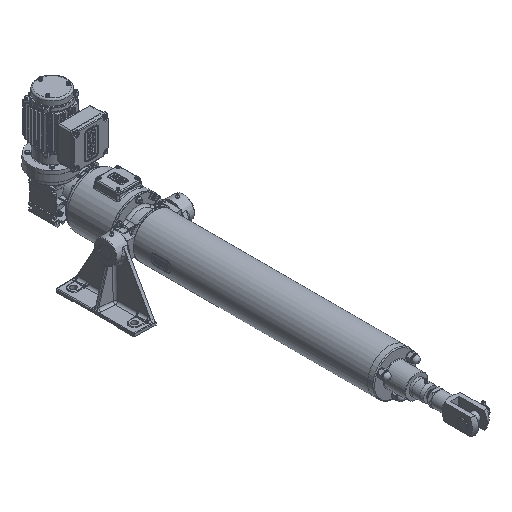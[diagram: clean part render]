
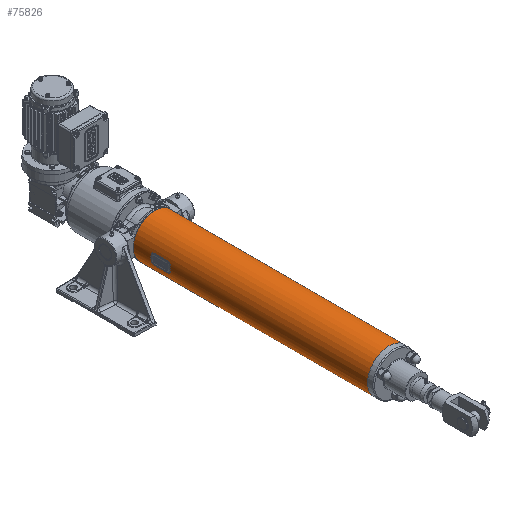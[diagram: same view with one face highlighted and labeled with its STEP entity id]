
A CAD part, isometric view. The second image highlights one B-rep face of the part: STEP entity #75826.
In plain terms, the highlighted cylindrical face has radius 70 mm (diameter 140 mm), a full revolution.
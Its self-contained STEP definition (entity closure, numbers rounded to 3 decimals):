
#1158=CYLINDRICAL_SURFACE('',#80118,70.);
#2663=B_SPLINE_CURVE_WITH_KNOTS('',3,(#108322,#108323,#108324,#108325,#108326,
#108327),.UNSPECIFIED.,.F.,.F.,(4,1,1,4),(0.,0.003,0.006,
0.013),.UNSPECIFIED.);
#2664=B_SPLINE_CURVE_WITH_KNOTS('',3,(#108331,#108332,#108333,#108334,#108335,
#108336,#108337),.UNSPECIFIED.,.F.,.F.,(4,1,1,1,4),(0.,0.003,
0.006,0.009,0.013),
 .UNSPECIFIED.);
#2665=B_SPLINE_CURVE_WITH_KNOTS('',3,(#108338,#108339,#108340,#108341,#108342,
#108343),.UNSPECIFIED.,.F.,.F.,(4,1,1,4),(0.,0.003,0.006,
0.013),.UNSPECIFIED.);
#2666=B_SPLINE_CURVE_WITH_KNOTS('',3,(#108347,#108348,#108349,#108350,#108351,
#108352,#108353),.UNSPECIFIED.,.F.,.F.,(4,1,1,1,4),(0.,0.003,
0.006,0.009,0.013),
 .UNSPECIFIED.);
#2667=B_SPLINE_CURVE_WITH_KNOTS('',3,(#108358,#108359,#108360,#108361,#108362,
#108363),.UNSPECIFIED.,.F.,.F.,(4,1,1,4),(0.,0.003,0.006,
0.013),.UNSPECIFIED.);
#2668=B_SPLINE_CURVE_WITH_KNOTS('',3,(#108367,#108368,#108369,#108370,#108371,
#108372,#108373),.UNSPECIFIED.,.F.,.F.,(4,1,1,1,4),(0.,0.003,
0.006,0.009,0.013),.UNSPECIFIED.);
#2669=B_SPLINE_CURVE_WITH_KNOTS('',3,(#108374,#108375,#108376,#108377,#108378,
#108379),.UNSPECIFIED.,.F.,.F.,(4,1,1,4),(0.,0.003,0.006,
0.013),.UNSPECIFIED.);
#2670=B_SPLINE_CURVE_WITH_KNOTS('',3,(#108383,#108384,#108385,#108386,#108387,
#108388,#108389),.UNSPECIFIED.,.F.,.F.,(4,1,1,1,4),(0.,0.003,
0.006,0.009,0.013),
 .UNSPECIFIED.);
#4472=LINE('',#108329,#8336);
#4473=LINE('',#108345,#8337);
#4474=LINE('',#108365,#8338);
#4475=LINE('',#108381,#8339);
#8336=VECTOR('',#89149,1000.);
#8337=VECTOR('',#89150,1000.);
#8338=VECTOR('',#89155,1000.);
#8339=VECTOR('',#89156,1000.);
#16080=ORIENTED_EDGE('',*,*,#29884,.F.);
#16081=ORIENTED_EDGE('',*,*,#29885,.F.);
#16082=ORIENTED_EDGE('',*,*,#29886,.F.);
#16083=ORIENTED_EDGE('',*,*,#29875,.F.);
#16084=ORIENTED_EDGE('',*,*,#29887,.F.);
#16085=ORIENTED_EDGE('',*,*,#29888,.F.);
#16086=ORIENTED_EDGE('',*,*,#29889,.F.);
#16087=ORIENTED_EDGE('',*,*,#29871,.F.);
#16088=ORIENTED_EDGE('',*,*,#29890,.F.);
#16089=ORIENTED_EDGE('',*,*,#29891,.T.);
#16090=ORIENTED_EDGE('',*,*,#29892,.F.);
#16091=ORIENTED_EDGE('',*,*,#29893,.F.);
#16092=ORIENTED_EDGE('',*,*,#29894,.F.);
#16093=ORIENTED_EDGE('',*,*,#29883,.F.);
#16094=ORIENTED_EDGE('',*,*,#29895,.F.);
#16095=ORIENTED_EDGE('',*,*,#29896,.F.);
#16096=ORIENTED_EDGE('',*,*,#29897,.F.);
#16097=ORIENTED_EDGE('',*,*,#29879,.F.);
#29871=EDGE_CURVE('',#37087,#37085,#41746,.T.);
#29875=EDGE_CURVE('',#37091,#37089,#41748,.T.);
#29879=EDGE_CURVE('',#37095,#37093,#41750,.T.);
#29883=EDGE_CURVE('',#37099,#37097,#41752,.T.);
#29884=EDGE_CURVE('',#37100,#37087,#2663,.T.);
#29885=EDGE_CURVE('',#37101,#37100,#4472,.T.);
#29886=EDGE_CURVE('',#37089,#37101,#2664,.T.);
#29887=EDGE_CURVE('',#37102,#37091,#2665,.T.);
#29888=EDGE_CURVE('',#37103,#37102,#4473,.F.);
#29889=EDGE_CURVE('',#37085,#37103,#2666,.T.);
#29890=EDGE_CURVE('',#37104,#37104,#41753,.T.);
#29891=EDGE_CURVE('',#37105,#37105,#41754,.T.);
#29892=EDGE_CURVE('',#37106,#37095,#2667,.T.);
#29893=EDGE_CURVE('',#37107,#37106,#4474,.F.);
#29894=EDGE_CURVE('',#37097,#37107,#2668,.T.);
#29895=EDGE_CURVE('',#37108,#37099,#2669,.T.);
#29896=EDGE_CURVE('',#37109,#37108,#4475,.T.);
#29897=EDGE_CURVE('',#37093,#37109,#2670,.T.);
#37085=VERTEX_POINT('',#108288);
#37087=VERTEX_POINT('',#108292);
#37089=VERTEX_POINT('',#108297);
#37091=VERTEX_POINT('',#108301);
#37093=VERTEX_POINT('',#108306);
#37095=VERTEX_POINT('',#108310);
#37097=VERTEX_POINT('',#108315);
#37099=VERTEX_POINT('',#108319);
#37100=VERTEX_POINT('',#108328);
#37101=VERTEX_POINT('',#108330);
#37102=VERTEX_POINT('',#108344);
#37103=VERTEX_POINT('',#108346);
#37104=VERTEX_POINT('',#108355);
#37105=VERTEX_POINT('',#108357);
#37106=VERTEX_POINT('',#108364);
#37107=VERTEX_POINT('',#108366);
#37108=VERTEX_POINT('',#108380);
#37109=VERTEX_POINT('',#108382);
#41746=CIRCLE('',#80108,70.);
#41748=CIRCLE('',#80111,70.);
#41750=CIRCLE('',#80114,70.);
#41752=CIRCLE('',#80117,70.);
#41753=CIRCLE('',#80119,70.);
#41754=CIRCLE('',#80120,70.);
#44532=EDGE_LOOP('',(#16080,#16081,#16082,#16083,#16084,#16085,#16086,#16087));
#44533=EDGE_LOOP('',(#16088));
#44534=EDGE_LOOP('',(#16089));
#44535=EDGE_LOOP('',(#16090,#16091,#16092,#16093,#16094,#16095,#16096,#16097));
#48383=FACE_BOUND('',#44532,.T.);
#48384=FACE_BOUND('',#44533,.T.);
#48385=FACE_BOUND('',#44534,.T.);
#48386=FACE_BOUND('',#44535,.T.);
#75826=ADVANCED_FACE('',(#48383,#48384,#48385,#48386),#1158,.T.);
#80108=AXIS2_PLACEMENT_3D('',#108293,#89121,#89122);
#80111=AXIS2_PLACEMENT_3D('',#108302,#89129,#89130);
#80114=AXIS2_PLACEMENT_3D('',#108311,#89137,#89138);
#80117=AXIS2_PLACEMENT_3D('',#108320,#89145,#89146);
#80118=AXIS2_PLACEMENT_3D('',#108321,#89147,#89148);
#80119=AXIS2_PLACEMENT_3D('',#108354,#89151,#89152);
#80120=AXIS2_PLACEMENT_3D('',#108356,#89153,#89154);
#89121=DIRECTION('',(0.,1.,0.));
#89122=DIRECTION('',(0.,0.,1.));
#89129=DIRECTION('',(0.,-1.,0.));
#89130=DIRECTION('',(0.,0.,-1.));
#89137=DIRECTION('',(0.,-1.,0.));
#89138=DIRECTION('',(0.,0.,-1.));
#89145=DIRECTION('',(0.,1.,0.));
#89146=DIRECTION('',(0.,0.,1.));
#89147=DIRECTION('',(0.,-1.,0.));
#89148=DIRECTION('',(0.,0.,-1.));
#89149=DIRECTION('',(0.,-1.,0.));
#89150=DIRECTION('',(0.,-1.,0.));
#89151=DIRECTION('',(0.,1.,0.));
#89152=DIRECTION('',(1.,0.,0.));
#89153=DIRECTION('',(0.,1.,0.));
#89154=DIRECTION('',(1.,0.,0.));
#89155=DIRECTION('',(0.,-1.,0.));
#89156=DIRECTION('',(0.,-1.,0.));
#108288=CARTESIAN_POINT('',(69.541,642.503,-8.));
#108292=CARTESIAN_POINT('',(69.541,642.503,8.));
#108293=CARTESIAN_POINT('',(0.,642.503,0.));
#108297=CARTESIAN_POINT('',(69.541,704.503,8.));
#108301=CARTESIAN_POINT('',(69.541,704.503,-8.));
#108302=CARTESIAN_POINT('',(0.,704.503,0.));
#108306=CARTESIAN_POINT('',(-69.541,707.853,-8.));
#108310=CARTESIAN_POINT('',(-69.541,707.853,8.));
#108311=CARTESIAN_POINT('',(0.,707.853,0.));
#108315=CARTESIAN_POINT('',(-69.541,645.853,8.));
#108319=CARTESIAN_POINT('',(-69.541,645.853,-8.));
#108320=CARTESIAN_POINT('',(0.,645.853,0.));
#108321=CARTESIAN_POINT('',(0.,766.,0.));
#108322=CARTESIAN_POINT('',(68.147,650.503,16.));
#108323=CARTESIAN_POINT('',(68.147,649.439,16.));
#108324=CARTESIAN_POINT('',(68.248,647.345,15.576));
#108325=CARTESIAN_POINT('',(68.774,643.795,13.194));
#108326=CARTESIAN_POINT('',(69.298,642.503,10.113));
#108327=CARTESIAN_POINT('',(69.541,642.503,8.));
#108328=CARTESIAN_POINT('',(68.147,650.503,16.));
#108329=CARTESIAN_POINT('',(68.147,766.,16.));
#108330=CARTESIAN_POINT('',(68.147,696.503,16.));
#108331=CARTESIAN_POINT('',(69.541,704.503,8.));
#108332=CARTESIAN_POINT('',(69.42,704.503,9.057));
#108333=CARTESIAN_POINT('',(69.131,704.086,11.132));
#108334=CARTESIAN_POINT('',(68.642,702.322,13.787));
#108335=CARTESIAN_POINT('',(68.249,699.672,15.572));
#108336=CARTESIAN_POINT('',(68.147,697.567,16.));
#108337=CARTESIAN_POINT('',(68.147,696.503,16.));
#108338=CARTESIAN_POINT('',(68.147,696.503,-16.));
#108339=CARTESIAN_POINT('',(68.147,697.567,-16.));
#108340=CARTESIAN_POINT('',(68.248,699.661,-15.576));
#108341=CARTESIAN_POINT('',(68.774,703.21,-13.194));
#108342=CARTESIAN_POINT('',(69.298,704.503,-10.113));
#108343=CARTESIAN_POINT('',(69.541,704.503,-8.));
#108344=CARTESIAN_POINT('',(68.147,696.503,-16.));
#108345=CARTESIAN_POINT('',(68.147,766.,-16.));
#108346=CARTESIAN_POINT('',(68.147,650.503,-16.));
#108347=CARTESIAN_POINT('',(69.541,642.503,-8.));
#108348=CARTESIAN_POINT('',(69.42,642.503,-9.057));
#108349=CARTESIAN_POINT('',(69.131,642.92,-11.132));
#108350=CARTESIAN_POINT('',(68.642,644.684,-13.787));
#108351=CARTESIAN_POINT('',(68.249,647.334,-15.572));
#108352=CARTESIAN_POINT('',(68.147,649.439,-16.));
#108353=CARTESIAN_POINT('',(68.147,650.503,-16.));
#108354=CARTESIAN_POINT('',(0.,766.,0.));
#108355=CARTESIAN_POINT('',(70.,766.,0.));
#108356=CARTESIAN_POINT('',(0.,0.,0.));
#108357=CARTESIAN_POINT('',(70.,0.,0.));
#108358=CARTESIAN_POINT('',(-68.147,699.853,16.));
#108359=CARTESIAN_POINT('',(-68.147,700.917,16.));
#108360=CARTESIAN_POINT('',(-68.248,703.011,15.576));
#108361=CARTESIAN_POINT('',(-68.774,706.56,13.194));
#108362=CARTESIAN_POINT('',(-69.298,707.853,10.113));
#108363=CARTESIAN_POINT('',(-69.541,707.853,8.));
#108364=CARTESIAN_POINT('',(-68.147,699.853,16.));
#108365=CARTESIAN_POINT('',(-68.147,766.,16.));
#108366=CARTESIAN_POINT('',(-68.147,653.853,16.));
#108367=CARTESIAN_POINT('',(-69.541,645.853,8.));
#108368=CARTESIAN_POINT('',(-69.42,645.853,9.057));
#108369=CARTESIAN_POINT('',(-69.131,646.27,11.132));
#108370=CARTESIAN_POINT('',(-68.642,648.034,13.787));
#108371=CARTESIAN_POINT('',(-68.249,650.684,15.572));
#108372=CARTESIAN_POINT('',(-68.147,652.789,16.));
#108373=CARTESIAN_POINT('',(-68.147,653.853,16.));
#108374=CARTESIAN_POINT('',(-68.147,653.853,-16.));
#108375=CARTESIAN_POINT('',(-68.147,652.789,-16.));
#108376=CARTESIAN_POINT('',(-68.248,650.695,-15.576));
#108377=CARTESIAN_POINT('',(-68.774,647.145,-13.194));
#108378=CARTESIAN_POINT('',(-69.298,645.853,-10.113));
#108379=CARTESIAN_POINT('',(-69.541,645.853,-8.));
#108380=CARTESIAN_POINT('',(-68.147,653.853,-16.));
#108381=CARTESIAN_POINT('',(-68.147,766.,-16.));
#108382=CARTESIAN_POINT('',(-68.147,699.853,-16.));
#108383=CARTESIAN_POINT('',(-69.541,707.853,-8.));
#108384=CARTESIAN_POINT('',(-69.42,707.853,-9.057));
#108385=CARTESIAN_POINT('',(-69.131,707.436,-11.132));
#108386=CARTESIAN_POINT('',(-68.642,705.672,-13.787));
#108387=CARTESIAN_POINT('',(-68.249,703.022,-15.572));
#108388=CARTESIAN_POINT('',(-68.147,700.917,-16.));
#108389=CARTESIAN_POINT('',(-68.147,699.853,-16.));
